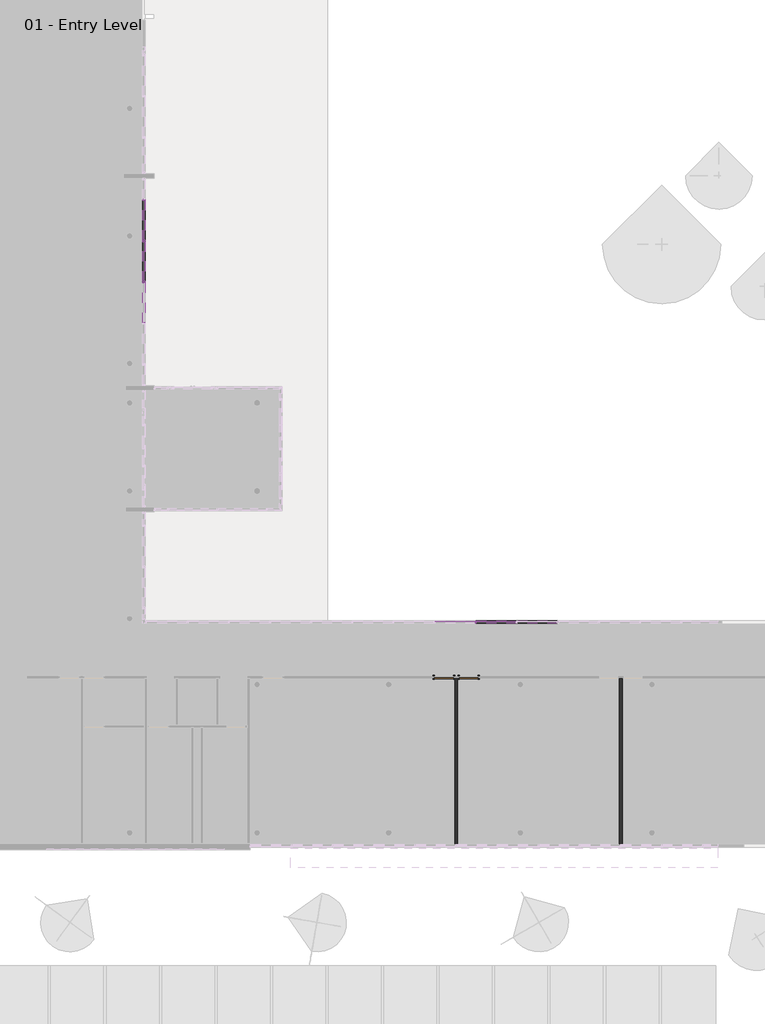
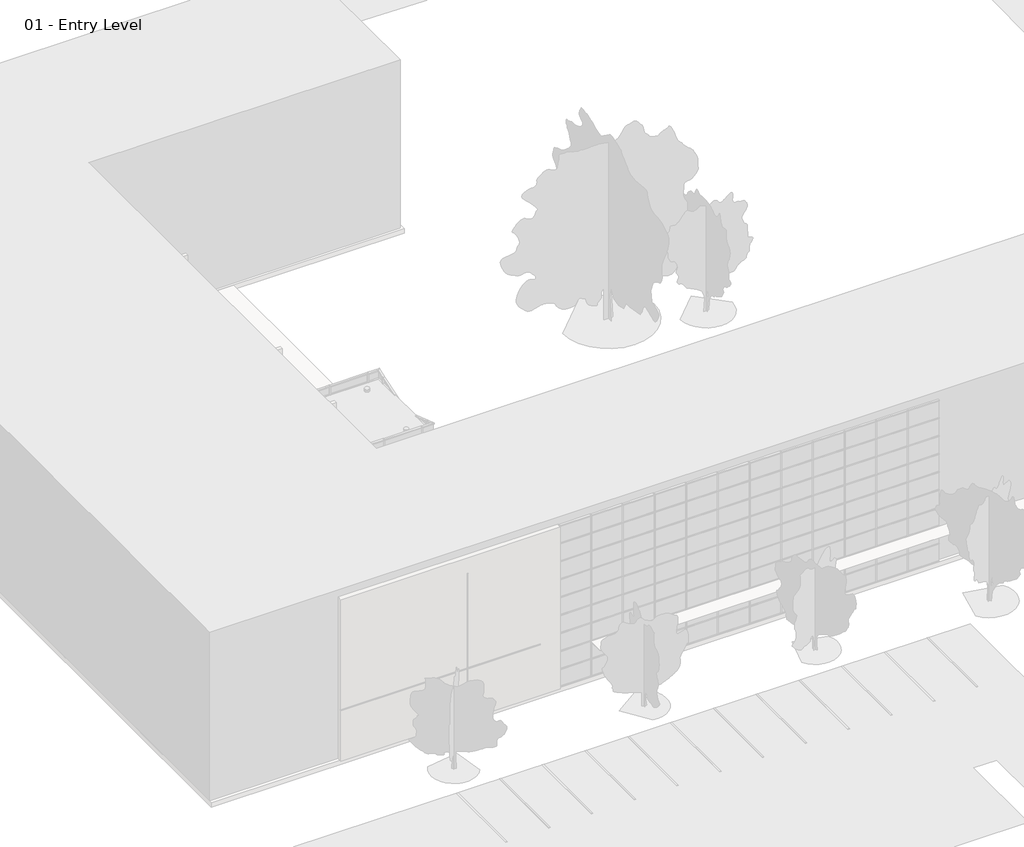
# One storey, part 18 of 34: 90 members, 36 plates, 2 doors, 2 walls.
"""IFC4 building model written with IfcOpenShell, lengths in millimetres."""

from ifc_helpers import new_model, si_unit, origin, origin_with_axes, place, context, project, spatial, polyline, outline, extrude, transform, mapped, element, save
from components import door_a1797ceb, door_a3eb833a, member_2b49869a, member_391b434c, member_9e90ae50, member_9193c932, system_panel_glazed_1b9d6098, system_panel_glazed_70da479d

model = new_model("IFC4")

# Units and contexts
model_context = context("Model", 3, world=origin())
ifc_project = project(units=[si_unit("LENGTHUNIT", "METRE", prefix="MILLI")], contexts=[model_context])

# Site, building, storey
site = spatial("IfcSite", under=ifc_project)
building = spatial("IfcBuilding", under=site)
storey = spatial("IfcBuildingStorey", under=building, Name="01 - Entry Level", Elevation=0.0)

# Doors
placement = place(None, origin())
door_shape = door_a1797ceb(model_context)
element("IfcDoor", 1, ObjectType="Single-Flush : 36\" x 84\"", at=placement, inside=storey, context=model_context, shape_type="MappedRepresentation", body=[
    mapped(door_shape, transform((33236.8207476, 8270.8, 0.0), x_axis=(-1.0, 0.0, 0.0), y_axis=(0.0, -1.0, 0.0), z_axis=(0.0, 0.0, 1.0))),
])
door_2_shape = door_a3eb833a(model_context)
element("IfcDoor", 2, ObjectType="Single-Flush : 36\" x 84\"", at=placement, inside=storey, context=model_context, shape_type="MappedRepresentation", body=[
    mapped(door_2_shape, transform((32017.6207476, 8270.8, 0.0), x_axis=(1.0, 0.0, 0.0), y_axis=(0.0, 1.0, 0.0), z_axis=(0.0, 0.0, 1.0))),
])

# Members
member_shape = member_2b49869a(model_context)
element("IfcMember", 3, ObjectType="Rectangular Mullion : 2.5\" x 5\" rectangular", at=placement, inside=storey, context=model_context, shape_type="MappedRepresentation", body=[
    mapped(member_shape, transform((33592.4207476, 11001.3, 9753.6), x_axis=(-1.0, 0.0, 0.0), y_axis=(0.0, 1.0, 0.0), z_axis=(0.0, 0.0, -1.0))),
])
element("IfcMember", 4, ObjectType="Rectangular Mullion : 2.5\" x 5\" rectangular", at=placement, inside=storey, context=model_context, shape_type="MappedRepresentation", body=[
    mapped(member_shape, transform((17184.0207476, 27784.35, 9753.6), x_axis=(0.0, 1.0, 0.0), y_axis=(1.0, 0.0, 0.0), z_axis=(0.0, 0.0, -1.0))),
])
element("IfcMember", 5, ObjectType="Rectangular Mullion : 2.5\" x 5\" rectangular", at=placement, inside=storey, context=model_context, shape_type="MappedRepresentation", body=[
    mapped(member_shape, transform((17184.0207476, 29816.35, 9753.6), x_axis=(0.0, 1.0, 0.0), y_axis=(1.0, 0.0, 0.0), z_axis=(0.0, 0.0, -1.0))),
])
element("IfcMember", 6, ObjectType="Rectangular Mullion : 2.5\" x 5\" rectangular", at=placement, inside=storey, context=model_context, shape_type="MappedRepresentation", body=[
    mapped(member_shape, transform((17184.0207476, 31848.35, 9753.6), x_axis=(0.0, 1.0, 0.0), y_axis=(1.0, 0.0, 0.0), z_axis=(0.0, 0.0, -1.0))),
])
member_2_shape = member_391b434c(model_context)
element("IfcMember", 7, ObjectType="Rectangular Mullion : 2.5\" x 5\" rectangular", at=placement, inside=storey, context=model_context, shape_type="MappedRepresentation", body=[
    mapped(member_2_shape, transform((35656.1707476, 11001.3, 10972.8), x_axis=(0.0, 0.0, 1.0), y_axis=(0.0, 1.0, 0.0), z_axis=(-1.0, 0.0, 0.0))),
])
element("IfcMember", 8, ObjectType="Rectangular Mullion : 2.5\" x 5\" rectangular", at=placement, inside=storey, context=model_context, shape_type="MappedRepresentation", body=[
    mapped(member_2_shape, transform((33624.1707476, 11001.3, 10972.8), x_axis=(0.0, 0.0, 1.0), y_axis=(0.0, 1.0, 0.0), z_axis=(-1.0, 0.0, 0.0))),
])
element("IfcMember", 9, ObjectType="Rectangular Mullion : 2.5\" x 5\" rectangular", at=placement, inside=storey, context=model_context, shape_type="MappedRepresentation", body=[
    mapped(member_2_shape, transform((17184.0207476, 29784.6, 10972.8), x_axis=(0.0, 0.0, 1.0), y_axis=(1.0, 0.0, 0.0), z_axis=(0.0, 1.0, 0.0))),
])
element("IfcMember", 10, ObjectType="Rectangular Mullion : 2.5\" x 5\" rectangular", at=placement, inside=storey, context=model_context, shape_type="MappedRepresentation", body=[
    mapped(member_2_shape, transform((17184.0207476, 31816.6, 10972.8), x_axis=(0.0, 0.0, 1.0), y_axis=(1.0, 0.0, 0.0), z_axis=(0.0, 1.0, 0.0))),
])
element("IfcMember", 11, ObjectType="Rectangular Mullion : 2.5\" x 5\" rectangular", at=placement, inside=storey, context=model_context, shape_type="MappedRepresentation", body=[
    mapped(member_2_shape, transform((35592.6707476, 11001.3, 0.0), x_axis=(0.0, 0.0, -1.0), y_axis=(0.0, 1.0, 0.0), z_axis=(1.0, 0.0, 0.0))),
])
element("IfcMember", 12, ObjectType="Rectangular Mullion : 2.5\" x 5\" rectangular", at=placement, inside=storey, context=model_context, shape_type="MappedRepresentation", body=[
    mapped(member_2_shape, transform((33560.6707476, 11001.3, 0.0), x_axis=(0.0, 0.0, -1.0), y_axis=(0.0, 1.0, 0.0), z_axis=(1.0, 0.0, 0.0))),
])
element("IfcMember", 13, ObjectType="Rectangular Mullion : 2.5\" x 5\" rectangular", at=placement, inside=storey, context=model_context, shape_type="MappedRepresentation", body=[
    mapped(member_2_shape, transform((17184.0207476, 29848.1, 0.0), x_axis=(0.0, 0.0, -1.0), y_axis=(1.0, 0.0, 0.0), z_axis=(0.0, -1.0, 0.0))),
])
member_3_shape = member_9e90ae50(model_context)
element("IfcMember", 14, ObjectType="Rectangular Mullion : 2.5\" x 5\" rectangular", at=placement, inside=storey, context=model_context, shape_type="MappedRepresentation", body=[
    mapped(member_3_shape, transform((35656.1707476, 11001.3, 1219.2), x_axis=(0.0, 0.0, 1.0), y_axis=(0.0, 1.0, 0.0), z_axis=(-1.0, 0.0, 0.0))),
])
element("IfcMember", 15, ObjectType="Rectangular Mullion : 2.5\" x 5\" rectangular", at=placement, inside=storey, context=model_context, shape_type="MappedRepresentation", body=[
    mapped(member_3_shape, transform((33624.1707476, 11001.3, 1219.2), x_axis=(0.0, 0.0, 1.0), y_axis=(0.0, 1.0, 0.0), z_axis=(-1.0, 0.0, 0.0))),
])
element("IfcMember", 16, ObjectType="Rectangular Mullion : 2.5\" x 5\" rectangular", at=placement, inside=storey, context=model_context, shape_type="MappedRepresentation", body=[
    mapped(member_3_shape, transform((35656.1707476, 11001.3, 2438.4), x_axis=(0.0, 0.0, 1.0), y_axis=(0.0, 1.0, 0.0), z_axis=(-1.0, 0.0, 0.0))),
])
element("IfcMember", 17, ObjectType="Rectangular Mullion : 2.5\" x 5\" rectangular", at=placement, inside=storey, context=model_context, shape_type="MappedRepresentation", body=[
    mapped(member_3_shape, transform((33624.1707476, 11001.3, 2438.4), x_axis=(0.0, 0.0, 1.0), y_axis=(0.0, 1.0, 0.0), z_axis=(-1.0, 0.0, 0.0))),
])
element("IfcMember", 18, ObjectType="Rectangular Mullion : 2.5\" x 5\" rectangular", at=placement, inside=storey, context=model_context, shape_type="MappedRepresentation", body=[
    mapped(member_3_shape, transform((35656.1707476, 11001.3, 3657.6), x_axis=(0.0, 0.0, 1.0), y_axis=(0.0, 1.0, 0.0), z_axis=(-1.0, 0.0, 0.0))),
])
element("IfcMember", 19, ObjectType="Rectangular Mullion : 2.5\" x 5\" rectangular", at=placement, inside=storey, context=model_context, shape_type="MappedRepresentation", body=[
    mapped(member_3_shape, transform((33624.1707476, 11001.3, 3657.6), x_axis=(0.0, 0.0, 1.0), y_axis=(0.0, 1.0, 0.0), z_axis=(-1.0, 0.0, 0.0))),
])
element("IfcMember", 20, ObjectType="Rectangular Mullion : 2.5\" x 5\" rectangular", at=placement, inside=storey, context=model_context, shape_type="MappedRepresentation", body=[
    mapped(member_3_shape, transform((35656.1707476, 11001.3, 4876.8), x_axis=(0.0, 0.0, 1.0), y_axis=(0.0, 1.0, 0.0), z_axis=(-1.0, 0.0, 0.0))),
])
element("IfcMember", 21, ObjectType="Rectangular Mullion : 2.5\" x 5\" rectangular", at=placement, inside=storey, context=model_context, shape_type="MappedRepresentation", body=[
    mapped(member_3_shape, transform((33624.1707476, 11001.3, 4876.8), x_axis=(0.0, 0.0, 1.0), y_axis=(0.0, 1.0, 0.0), z_axis=(-1.0, 0.0, 0.0))),
])
element("IfcMember", 22, ObjectType="Rectangular Mullion : 2.5\" x 5\" rectangular", at=placement, inside=storey, context=model_context, shape_type="MappedRepresentation", body=[
    mapped(member_3_shape, transform((35656.1707476, 11001.3, 6096.0), x_axis=(0.0, 0.0, 1.0), y_axis=(0.0, 1.0, 0.0), z_axis=(-1.0, 0.0, 0.0))),
])
element("IfcMember", 23, ObjectType="Rectangular Mullion : 2.5\" x 5\" rectangular", at=placement, inside=storey, context=model_context, shape_type="MappedRepresentation", body=[
    mapped(member_3_shape, transform((33624.1707476, 11001.3, 6096.0), x_axis=(0.0, 0.0, 1.0), y_axis=(0.0, 1.0, 0.0), z_axis=(-1.0, 0.0, 0.0))),
])
element("IfcMember", 24, ObjectType="Rectangular Mullion : 2.5\" x 5\" rectangular", at=placement, inside=storey, context=model_context, shape_type="MappedRepresentation", body=[
    mapped(member_3_shape, transform((35656.1707476, 11001.3, 7315.2), x_axis=(0.0, 0.0, 1.0), y_axis=(0.0, 1.0, 0.0), z_axis=(-1.0, 0.0, 0.0))),
])
element("IfcMember", 25, ObjectType="Rectangular Mullion : 2.5\" x 5\" rectangular", at=placement, inside=storey, context=model_context, shape_type="MappedRepresentation", body=[
    mapped(member_3_shape, transform((33624.1707476, 11001.3, 7315.2), x_axis=(0.0, 0.0, 1.0), y_axis=(0.0, 1.0, 0.0), z_axis=(-1.0, 0.0, 0.0))),
])
element("IfcMember", 26, ObjectType="Rectangular Mullion : 2.5\" x 5\" rectangular", at=placement, inside=storey, context=model_context, shape_type="MappedRepresentation", body=[
    mapped(member_3_shape, transform((35656.1707476, 11001.3, 8534.4), x_axis=(0.0, 0.0, 1.0), y_axis=(0.0, 1.0, 0.0), z_axis=(-1.0, 0.0, 0.0))),
])
element("IfcMember", 27, ObjectType="Rectangular Mullion : 2.5\" x 5\" rectangular", at=placement, inside=storey, context=model_context, shape_type="MappedRepresentation", body=[
    mapped(member_3_shape, transform((33624.1707476, 11001.3, 8534.4), x_axis=(0.0, 0.0, 1.0), y_axis=(0.0, 1.0, 0.0), z_axis=(-1.0, 0.0, 0.0))),
])
element("IfcMember", 28, ObjectType="Rectangular Mullion : 2.5\" x 5\" rectangular", at=placement, inside=storey, context=model_context, shape_type="MappedRepresentation", body=[
    mapped(member_3_shape, transform((35656.1707476, 11001.3, 9753.6), x_axis=(0.0, 0.0, 1.0), y_axis=(0.0, 1.0, 0.0), z_axis=(-1.0, 0.0, 0.0))),
])
element("IfcMember", 29, ObjectType="Rectangular Mullion : 2.5\" x 5\" rectangular", at=placement, inside=storey, context=model_context, shape_type="MappedRepresentation", body=[
    mapped(member_3_shape, transform((33624.1707476, 11001.3, 9753.6), x_axis=(0.0, 0.0, 1.0), y_axis=(0.0, 1.0, 0.0), z_axis=(-1.0, 0.0, 0.0))),
])
element("IfcMember", 30, ObjectType="Rectangular Mullion : 2.5\" x 5\" rectangular", at=placement, inside=storey, context=model_context, shape_type="MappedRepresentation", body=[
    mapped(member_3_shape, transform((17184.0207476, 29784.6, 1219.2), x_axis=(0.0, 0.0, 1.0), y_axis=(1.0, 0.0, 0.0), z_axis=(0.0, 1.0, 0.0))),
])
element("IfcMember", 31, ObjectType="Rectangular Mullion : 2.5\" x 5\" rectangular", at=placement, inside=storey, context=model_context, shape_type="MappedRepresentation", body=[
    mapped(member_3_shape, transform((17184.0207476, 31816.6, 1219.2), x_axis=(0.0, 0.0, 1.0), y_axis=(1.0, 0.0, 0.0), z_axis=(0.0, 1.0, 0.0))),
])
element("IfcMember", 32, ObjectType="Rectangular Mullion : 2.5\" x 5\" rectangular", at=placement, inside=storey, context=model_context, shape_type="MappedRepresentation", body=[
    mapped(member_3_shape, transform((17184.0207476, 29784.6, 2438.4), x_axis=(0.0, 0.0, 1.0), y_axis=(1.0, 0.0, 0.0), z_axis=(0.0, 1.0, 0.0))),
])
element("IfcMember", 33, ObjectType="Rectangular Mullion : 2.5\" x 5\" rectangular", at=placement, inside=storey, context=model_context, shape_type="MappedRepresentation", body=[
    mapped(member_3_shape, transform((17184.0207476, 31816.6, 2438.4), x_axis=(0.0, 0.0, 1.0), y_axis=(1.0, 0.0, 0.0), z_axis=(0.0, 1.0, 0.0))),
])
element("IfcMember", 34, ObjectType="Rectangular Mullion : 2.5\" x 5\" rectangular", at=placement, inside=storey, context=model_context, shape_type="MappedRepresentation", body=[
    mapped(member_3_shape, transform((17184.0207476, 27752.6, 3657.6), x_axis=(0.0, 0.0, 1.0), y_axis=(1.0, 0.0, 0.0), z_axis=(0.0, 1.0, 0.0))),
])
element("IfcMember", 35, ObjectType="Rectangular Mullion : 2.5\" x 5\" rectangular", at=placement, inside=storey, context=model_context, shape_type="MappedRepresentation", body=[
    mapped(member_3_shape, transform((17184.0207476, 29784.6, 3657.6), x_axis=(0.0, 0.0, 1.0), y_axis=(1.0, 0.0, 0.0), z_axis=(0.0, 1.0, 0.0))),
])
element("IfcMember", 36, ObjectType="Rectangular Mullion : 2.5\" x 5\" rectangular", at=placement, inside=storey, context=model_context, shape_type="MappedRepresentation", body=[
    mapped(member_3_shape, transform((17184.0207476, 31816.6, 3657.6), x_axis=(0.0, 0.0, 1.0), y_axis=(1.0, 0.0, 0.0), z_axis=(0.0, 1.0, 0.0))),
])
element("IfcMember", 37, ObjectType="Rectangular Mullion : 2.5\" x 5\" rectangular", at=placement, inside=storey, context=model_context, shape_type="MappedRepresentation", body=[
    mapped(member_3_shape, transform((17184.0207476, 27752.6, 4876.8), x_axis=(0.0, 0.0, 1.0), y_axis=(1.0, 0.0, 0.0), z_axis=(0.0, 1.0, 0.0))),
])
element("IfcMember", 38, ObjectType="Rectangular Mullion : 2.5\" x 5\" rectangular", at=placement, inside=storey, context=model_context, shape_type="MappedRepresentation", body=[
    mapped(member_3_shape, transform((17184.0207476, 29784.6, 4876.8), x_axis=(0.0, 0.0, 1.0), y_axis=(1.0, 0.0, 0.0), z_axis=(0.0, 1.0, 0.0))),
])
element("IfcMember", 39, ObjectType="Rectangular Mullion : 2.5\" x 5\" rectangular", at=placement, inside=storey, context=model_context, shape_type="MappedRepresentation", body=[
    mapped(member_3_shape, transform((17184.0207476, 31816.6, 4876.8), x_axis=(0.0, 0.0, 1.0), y_axis=(1.0, 0.0, 0.0), z_axis=(0.0, 1.0, 0.0))),
])
element("IfcMember", 40, ObjectType="Rectangular Mullion : 2.5\" x 5\" rectangular", at=placement, inside=storey, context=model_context, shape_type="MappedRepresentation", body=[
    mapped(member_3_shape, transform((17184.0207476, 27752.6, 6096.0), x_axis=(0.0, 0.0, 1.0), y_axis=(1.0, 0.0, 0.0), z_axis=(0.0, 1.0, 0.0))),
])
element("IfcMember", 41, ObjectType="Rectangular Mullion : 2.5\" x 5\" rectangular", at=placement, inside=storey, context=model_context, shape_type="MappedRepresentation", body=[
    mapped(member_3_shape, transform((17184.0207476, 29784.6, 6096.0), x_axis=(0.0, 0.0, 1.0), y_axis=(1.0, 0.0, 0.0), z_axis=(0.0, 1.0, 0.0))),
])
element("IfcMember", 42, ObjectType="Rectangular Mullion : 2.5\" x 5\" rectangular", at=placement, inside=storey, context=model_context, shape_type="MappedRepresentation", body=[
    mapped(member_3_shape, transform((17184.0207476, 31816.6, 6096.0), x_axis=(0.0, 0.0, 1.0), y_axis=(1.0, 0.0, 0.0), z_axis=(0.0, 1.0, 0.0))),
])
element("IfcMember", 43, ObjectType="Rectangular Mullion : 2.5\" x 5\" rectangular", at=placement, inside=storey, context=model_context, shape_type="MappedRepresentation", body=[
    mapped(member_3_shape, transform((17184.0207476, 27752.6, 7315.2), x_axis=(0.0, 0.0, 1.0), y_axis=(1.0, 0.0, 0.0), z_axis=(0.0, 1.0, 0.0))),
])
element("IfcMember", 44, ObjectType="Rectangular Mullion : 2.5\" x 5\" rectangular", at=placement, inside=storey, context=model_context, shape_type="MappedRepresentation", body=[
    mapped(member_3_shape, transform((17184.0207476, 29784.6, 7315.2), x_axis=(0.0, 0.0, 1.0), y_axis=(1.0, 0.0, 0.0), z_axis=(0.0, 1.0, 0.0))),
])
element("IfcMember", 45, ObjectType="Rectangular Mullion : 2.5\" x 5\" rectangular", at=placement, inside=storey, context=model_context, shape_type="MappedRepresentation", body=[
    mapped(member_3_shape, transform((17184.0207476, 31816.6, 7315.2), x_axis=(0.0, 0.0, 1.0), y_axis=(1.0, 0.0, 0.0), z_axis=(0.0, 1.0, 0.0))),
])
element("IfcMember", 46, ObjectType="Rectangular Mullion : 2.5\" x 5\" rectangular", at=placement, inside=storey, context=model_context, shape_type="MappedRepresentation", body=[
    mapped(member_3_shape, transform((17184.0207476, 27752.6, 8534.4), x_axis=(0.0, 0.0, 1.0), y_axis=(1.0, 0.0, 0.0), z_axis=(0.0, 1.0, 0.0))),
])
element("IfcMember", 47, ObjectType="Rectangular Mullion : 2.5\" x 5\" rectangular", at=placement, inside=storey, context=model_context, shape_type="MappedRepresentation", body=[
    mapped(member_3_shape, transform((17184.0207476, 29784.6, 8534.4), x_axis=(0.0, 0.0, 1.0), y_axis=(1.0, 0.0, 0.0), z_axis=(0.0, 1.0, 0.0))),
])
element("IfcMember", 48, ObjectType="Rectangular Mullion : 2.5\" x 5\" rectangular", at=placement, inside=storey, context=model_context, shape_type="MappedRepresentation", body=[
    mapped(member_3_shape, transform((17184.0207476, 31816.6, 8534.4), x_axis=(0.0, 0.0, 1.0), y_axis=(1.0, 0.0, 0.0), z_axis=(0.0, 1.0, 0.0))),
])
element("IfcMember", 49, ObjectType="Rectangular Mullion : 2.5\" x 5\" rectangular", at=placement, inside=storey, context=model_context, shape_type="MappedRepresentation", body=[
    mapped(member_3_shape, transform((17184.0207476, 27752.6, 9753.6), x_axis=(0.0, 0.0, 1.0), y_axis=(1.0, 0.0, 0.0), z_axis=(0.0, 1.0, 0.0))),
])
element("IfcMember", 50, ObjectType="Rectangular Mullion : 2.5\" x 5\" rectangular", at=placement, inside=storey, context=model_context, shape_type="MappedRepresentation", body=[
    mapped(member_3_shape, transform((17184.0207476, 29784.6, 9753.6), x_axis=(0.0, 0.0, 1.0), y_axis=(1.0, 0.0, 0.0), z_axis=(0.0, 1.0, 0.0))),
])
element("IfcMember", 51, ObjectType="Rectangular Mullion : 2.5\" x 5\" rectangular", at=placement, inside=storey, context=model_context, shape_type="MappedRepresentation", body=[
    mapped(member_3_shape, transform((17184.0207476, 31816.6, 9753.6), x_axis=(0.0, 0.0, 1.0), y_axis=(1.0, 0.0, 0.0), z_axis=(0.0, 1.0, 0.0))),
])
element("IfcMember", 52, ObjectType="Rectangular Mullion : 2.5\" x 5\" rectangular", at=placement, inside=storey, context=model_context, shape_type="MappedRepresentation", body=[
    mapped(member_shape, transform((35624.4207476, 11001.3, 0.0), x_axis=(-1.0, 0.0, 0.0), y_axis=(0.0, 1.0, 0.0), z_axis=(0.0, 0.0, -1.0))),
])
element("IfcMember", 53, ObjectType="Rectangular Mullion : 2.5\" x 5\" rectangular", at=placement, inside=storey, context=model_context, shape_type="MappedRepresentation", body=[
    mapped(member_shape, transform((33592.4207476, 11001.3, 0.0), x_axis=(-1.0, 0.0, 0.0), y_axis=(0.0, 1.0, 0.0), z_axis=(0.0, 0.0, -1.0))),
])
element("IfcMember", 54, ObjectType="Rectangular Mullion : 2.5\" x 5\" rectangular", at=placement, inside=storey, context=model_context, shape_type="MappedRepresentation", body=[
    mapped(member_shape, transform((17184.0207476, 27784.35, 0.0), x_axis=(0.0, 1.0, 0.0), y_axis=(1.0, 0.0, 0.0), z_axis=(0.0, 0.0, -1.0))),
])
element("IfcMember", 55, ObjectType="Rectangular Mullion : 2.5\" x 5\" rectangular", at=placement, inside=storey, context=model_context, shape_type="MappedRepresentation", body=[
    mapped(member_shape, transform((17184.0207476, 29816.35, 0.0), x_axis=(0.0, 1.0, 0.0), y_axis=(1.0, 0.0, 0.0), z_axis=(0.0, 0.0, -1.0))),
])
element("IfcMember", 56, ObjectType="Rectangular Mullion : 2.5\" x 5\" rectangular", at=placement, inside=storey, context=model_context, shape_type="MappedRepresentation", body=[
    mapped(member_shape, transform((17184.0207476, 31848.35, 0.0), x_axis=(0.0, 1.0, 0.0), y_axis=(1.0, 0.0, 0.0), z_axis=(0.0, 0.0, -1.0))),
])
element("IfcMember", 57, ObjectType="Rectangular Mullion : 2.5\" x 5\" rectangular", at=placement, inside=storey, context=model_context, shape_type="MappedRepresentation", body=[
    mapped(member_shape, transform((35624.4207476, 11001.3, 1219.2), x_axis=(-1.0, 0.0, 0.0), y_axis=(0.0, 1.0, 0.0), z_axis=(0.0, 0.0, -1.0))),
])
element("IfcMember", 58, ObjectType="Rectangular Mullion : 2.5\" x 5\" rectangular", at=placement, inside=storey, context=model_context, shape_type="MappedRepresentation", body=[
    mapped(member_shape, transform((33592.4207476, 11001.3, 1219.2), x_axis=(-1.0, 0.0, 0.0), y_axis=(0.0, 1.0, 0.0), z_axis=(0.0, 0.0, -1.0))),
])
element("IfcMember", 59, ObjectType="Rectangular Mullion : 2.5\" x 5\" rectangular", at=placement, inside=storey, context=model_context, shape_type="MappedRepresentation", body=[
    mapped(member_shape, transform((35624.4207476, 11001.3, 2438.4), x_axis=(-1.0, 0.0, 0.0), y_axis=(0.0, 1.0, 0.0), z_axis=(0.0, 0.0, -1.0))),
])
element("IfcMember", 60, ObjectType="Rectangular Mullion : 2.5\" x 5\" rectangular", at=placement, inside=storey, context=model_context, shape_type="MappedRepresentation", body=[
    mapped(member_shape, transform((33592.4207476, 11001.3, 2438.4), x_axis=(-1.0, 0.0, 0.0), y_axis=(0.0, 1.0, 0.0), z_axis=(0.0, 0.0, -1.0))),
])
element("IfcMember", 61, ObjectType="Rectangular Mullion : 2.5\" x 5\" rectangular", at=placement, inside=storey, context=model_context, shape_type="MappedRepresentation", body=[
    mapped(member_shape, transform((35624.4207476, 11001.3, 3657.6), x_axis=(-1.0, 0.0, 0.0), y_axis=(0.0, 1.0, 0.0), z_axis=(0.0, 0.0, -1.0))),
])
element("IfcMember", 62, ObjectType="Rectangular Mullion : 2.5\" x 5\" rectangular", at=placement, inside=storey, context=model_context, shape_type="MappedRepresentation", body=[
    mapped(member_shape, transform((33592.4207476, 11001.3, 3657.6), x_axis=(-1.0, 0.0, 0.0), y_axis=(0.0, 1.0, 0.0), z_axis=(0.0, 0.0, -1.0))),
])
element("IfcMember", 63, ObjectType="Rectangular Mullion : 2.5\" x 5\" rectangular", at=placement, inside=storey, context=model_context, shape_type="MappedRepresentation", body=[
    mapped(member_shape, transform((35624.4207476, 11001.3, 4876.8), x_axis=(-1.0, 0.0, 0.0), y_axis=(0.0, 1.0, 0.0), z_axis=(0.0, 0.0, -1.0))),
])
element("IfcMember", 64, ObjectType="Rectangular Mullion : 2.5\" x 5\" rectangular", at=placement, inside=storey, context=model_context, shape_type="MappedRepresentation", body=[
    mapped(member_shape, transform((33592.4207476, 11001.3, 4876.8), x_axis=(-1.0, 0.0, 0.0), y_axis=(0.0, 1.0, 0.0), z_axis=(0.0, 0.0, -1.0))),
])
element("IfcMember", 65, ObjectType="Rectangular Mullion : 2.5\" x 5\" rectangular", at=placement, inside=storey, context=model_context, shape_type="MappedRepresentation", body=[
    mapped(member_shape, transform((35624.4207476, 11001.3, 6096.0), x_axis=(-1.0, 0.0, 0.0), y_axis=(0.0, 1.0, 0.0), z_axis=(0.0, 0.0, -1.0))),
])
element("IfcMember", 66, ObjectType="Rectangular Mullion : 2.5\" x 5\" rectangular", at=placement, inside=storey, context=model_context, shape_type="MappedRepresentation", body=[
    mapped(member_shape, transform((33592.4207476, 11001.3, 6096.0), x_axis=(-1.0, 0.0, 0.0), y_axis=(0.0, 1.0, 0.0), z_axis=(0.0, 0.0, -1.0))),
])
element("IfcMember", 67, ObjectType="Rectangular Mullion : 2.5\" x 5\" rectangular", at=placement, inside=storey, context=model_context, shape_type="MappedRepresentation", body=[
    mapped(member_shape, transform((35624.4207476, 11001.3, 7315.2), x_axis=(-1.0, 0.0, 0.0), y_axis=(0.0, 1.0, 0.0), z_axis=(0.0, 0.0, -1.0))),
])
element("IfcMember", 68, ObjectType="Rectangular Mullion : 2.5\" x 5\" rectangular", at=placement, inside=storey, context=model_context, shape_type="MappedRepresentation", body=[
    mapped(member_shape, transform((33592.4207476, 11001.3, 7315.2), x_axis=(-1.0, 0.0, 0.0), y_axis=(0.0, 1.0, 0.0), z_axis=(0.0, 0.0, -1.0))),
])
element("IfcMember", 69, ObjectType="Rectangular Mullion : 2.5\" x 5\" rectangular", at=placement, inside=storey, context=model_context, shape_type="MappedRepresentation", body=[
    mapped(member_shape, transform((35624.4207476, 11001.3, 8534.4), x_axis=(-1.0, 0.0, 0.0), y_axis=(0.0, 1.0, 0.0), z_axis=(0.0, 0.0, -1.0))),
])
element("IfcMember", 70, ObjectType="Rectangular Mullion : 2.5\" x 5\" rectangular", at=placement, inside=storey, context=model_context, shape_type="MappedRepresentation", body=[
    mapped(member_shape, transform((33592.4207476, 11001.3, 8534.4), x_axis=(-1.0, 0.0, 0.0), y_axis=(0.0, 1.0, 0.0), z_axis=(0.0, 0.0, -1.0))),
])
element("IfcMember", 71, ObjectType="Rectangular Mullion : 2.5\" x 5\" rectangular", at=placement, inside=storey, context=model_context, shape_type="MappedRepresentation", body=[
    mapped(member_shape, transform((17184.0207476, 27784.35, 1219.2), x_axis=(0.0, 1.0, 0.0), y_axis=(1.0, 0.0, 0.0), z_axis=(0.0, 0.0, -1.0))),
])
element("IfcMember", 72, ObjectType="Rectangular Mullion : 2.5\" x 5\" rectangular", at=placement, inside=storey, context=model_context, shape_type="MappedRepresentation", body=[
    mapped(member_shape, transform((17184.0207476, 29816.35, 1219.2), x_axis=(0.0, 1.0, 0.0), y_axis=(1.0, 0.0, 0.0), z_axis=(0.0, 0.0, -1.0))),
])
element("IfcMember", 73, ObjectType="Rectangular Mullion : 2.5\" x 5\" rectangular", at=placement, inside=storey, context=model_context, shape_type="MappedRepresentation", body=[
    mapped(member_shape, transform((17184.0207476, 31848.35, 1219.2), x_axis=(0.0, 1.0, 0.0), y_axis=(1.0, 0.0, 0.0), z_axis=(0.0, 0.0, -1.0))),
])
element("IfcMember", 74, ObjectType="Rectangular Mullion : 2.5\" x 5\" rectangular", at=placement, inside=storey, context=model_context, shape_type="MappedRepresentation", body=[
    mapped(member_shape, transform((17184.0207476, 27784.35, 2438.4), x_axis=(0.0, 1.0, 0.0), y_axis=(1.0, 0.0, 0.0), z_axis=(0.0, 0.0, -1.0))),
])
element("IfcMember", 75, ObjectType="Rectangular Mullion : 2.5\" x 5\" rectangular", at=placement, inside=storey, context=model_context, shape_type="MappedRepresentation", body=[
    mapped(member_shape, transform((17184.0207476, 29816.35, 2438.4), x_axis=(0.0, 1.0, 0.0), y_axis=(1.0, 0.0, 0.0), z_axis=(0.0, 0.0, -1.0))),
])
element("IfcMember", 76, ObjectType="Rectangular Mullion : 2.5\" x 5\" rectangular", at=placement, inside=storey, context=model_context, shape_type="MappedRepresentation", body=[
    mapped(member_shape, transform((17184.0207476, 31848.35, 2438.4), x_axis=(0.0, 1.0, 0.0), y_axis=(1.0, 0.0, 0.0), z_axis=(0.0, 0.0, -1.0))),
])
element("IfcMember", 77, ObjectType="Rectangular Mullion : 2.5\" x 5\" rectangular", at=placement, inside=storey, context=model_context, shape_type="MappedRepresentation", body=[
    mapped(member_shape, transform((17184.0207476, 27784.35, 3657.6), x_axis=(0.0, 1.0, 0.0), y_axis=(1.0, 0.0, 0.0), z_axis=(0.0, 0.0, -1.0))),
])
element("IfcMember", 78, ObjectType="Rectangular Mullion : 2.5\" x 5\" rectangular", at=placement, inside=storey, context=model_context, shape_type="MappedRepresentation", body=[
    mapped(member_shape, transform((17184.0207476, 29816.35, 3657.6), x_axis=(0.0, 1.0, 0.0), y_axis=(1.0, 0.0, 0.0), z_axis=(0.0, 0.0, -1.0))),
])
element("IfcMember", 79, ObjectType="Rectangular Mullion : 2.5\" x 5\" rectangular", at=placement, inside=storey, context=model_context, shape_type="MappedRepresentation", body=[
    mapped(member_shape, transform((17184.0207476, 31848.35, 3657.6), x_axis=(0.0, 1.0, 0.0), y_axis=(1.0, 0.0, 0.0), z_axis=(0.0, 0.0, -1.0))),
])
element("IfcMember", 80, ObjectType="Rectangular Mullion : 2.5\" x 5\" rectangular", at=placement, inside=storey, context=model_context, shape_type="MappedRepresentation", body=[
    mapped(member_shape, transform((17184.0207476, 27784.35, 4876.8), x_axis=(0.0, 1.0, 0.0), y_axis=(1.0, 0.0, 0.0), z_axis=(0.0, 0.0, -1.0))),
])
element("IfcMember", 81, ObjectType="Rectangular Mullion : 2.5\" x 5\" rectangular", at=placement, inside=storey, context=model_context, shape_type="MappedRepresentation", body=[
    mapped(member_shape, transform((17184.0207476, 29816.35, 4876.8), x_axis=(0.0, 1.0, 0.0), y_axis=(1.0, 0.0, 0.0), z_axis=(0.0, 0.0, -1.0))),
])
element("IfcMember", 82, ObjectType="Rectangular Mullion : 2.5\" x 5\" rectangular", at=placement, inside=storey, context=model_context, shape_type="MappedRepresentation", body=[
    mapped(member_shape, transform((17184.0207476, 31848.35, 4876.8), x_axis=(0.0, 1.0, 0.0), y_axis=(1.0, 0.0, 0.0), z_axis=(0.0, 0.0, -1.0))),
])
element("IfcMember", 83, ObjectType="Rectangular Mullion : 2.5\" x 5\" rectangular", at=placement, inside=storey, context=model_context, shape_type="MappedRepresentation", body=[
    mapped(member_shape, transform((17184.0207476, 27784.35, 6096.0), x_axis=(0.0, 1.0, 0.0), y_axis=(1.0, 0.0, 0.0), z_axis=(0.0, 0.0, -1.0))),
])
element("IfcMember", 84, ObjectType="Rectangular Mullion : 2.5\" x 5\" rectangular", at=placement, inside=storey, context=model_context, shape_type="MappedRepresentation", body=[
    mapped(member_shape, transform((17184.0207476, 29816.35, 6096.0), x_axis=(0.0, 1.0, 0.0), y_axis=(1.0, 0.0, 0.0), z_axis=(0.0, 0.0, -1.0))),
])
element("IfcMember", 85, ObjectType="Rectangular Mullion : 2.5\" x 5\" rectangular", at=placement, inside=storey, context=model_context, shape_type="MappedRepresentation", body=[
    mapped(member_shape, transform((17184.0207476, 31848.35, 6096.0), x_axis=(0.0, 1.0, 0.0), y_axis=(1.0, 0.0, 0.0), z_axis=(0.0, 0.0, -1.0))),
])
element("IfcMember", 86, ObjectType="Rectangular Mullion : 2.5\" x 5\" rectangular", at=placement, inside=storey, context=model_context, shape_type="MappedRepresentation", body=[
    mapped(member_shape, transform((17184.0207476, 27784.35, 7315.2), x_axis=(0.0, 1.0, 0.0), y_axis=(1.0, 0.0, 0.0), z_axis=(0.0, 0.0, -1.0))),
])
element("IfcMember", 87, ObjectType="Rectangular Mullion : 2.5\" x 5\" rectangular", at=placement, inside=storey, context=model_context, shape_type="MappedRepresentation", body=[
    mapped(member_shape, transform((17184.0207476, 29816.35, 7315.2), x_axis=(0.0, 1.0, 0.0), y_axis=(1.0, 0.0, 0.0), z_axis=(0.0, 0.0, -1.0))),
])
element("IfcMember", 88, ObjectType="Rectangular Mullion : 2.5\" x 5\" rectangular", at=placement, inside=storey, context=model_context, shape_type="MappedRepresentation", body=[
    mapped(member_shape, transform((17184.0207476, 31848.35, 7315.2), x_axis=(0.0, 1.0, 0.0), y_axis=(1.0, 0.0, 0.0), z_axis=(0.0, 0.0, -1.0))),
])
element("IfcMember", 89, ObjectType="Rectangular Mullion : 2.5\" x 5\" rectangular", at=placement, inside=storey, context=model_context, shape_type="MappedRepresentation", body=[
    mapped(member_shape, transform((17184.0207476, 27784.35, 8534.4), x_axis=(0.0, 1.0, 0.0), y_axis=(1.0, 0.0, 0.0), z_axis=(0.0, 0.0, -1.0))),
])
element("IfcMember", 90, ObjectType="Rectangular Mullion : 2.5\" x 5\" rectangular", at=placement, inside=storey, context=model_context, shape_type="MappedRepresentation", body=[
    mapped(member_shape, transform((17184.0207476, 29816.35, 8534.4), x_axis=(0.0, 1.0, 0.0), y_axis=(1.0, 0.0, 0.0), z_axis=(0.0, 0.0, -1.0))),
])
element("IfcMember", 91, ObjectType="Rectangular Mullion : 2.5\" x 5\" rectangular", at=placement, inside=storey, context=model_context, shape_type="MappedRepresentation", body=[
    mapped(member_shape, transform((17184.0207476, 31848.35, 8534.4), x_axis=(0.0, 1.0, 0.0), y_axis=(1.0, 0.0, 0.0), z_axis=(0.0, 0.0, -1.0))),
])
member_4_shape = member_9193c932(model_context)
element("IfcMember", 92, ObjectType="Rectangular Mullion : 2.5\" x 5\" rectangular", at=placement, inside=storey, context=model_context, shape_type="MappedRepresentation", body=[
    mapped(member_4_shape, transform((17184.0207476, 31880.1, 0.0), x_axis=(0.0, 0.0, -1.0), y_axis=(1.0, 0.0, 0.0), z_axis=(0.0, -1.0, 0.0))),
])

# Plates
system_panel_glazed_shape = system_panel_glazed_1b9d6098(model_context)
element("IfcPlate", 93, ObjectType="System Panel : Glazed", at=placement, inside=storey, context=model_context, shape_type="MappedRepresentation", body=[
    mapped(system_panel_glazed_shape, transform((34608.4207476, 11001.3, 63.5), x_axis=(-1.0, 0.0, 0.0), y_axis=(0.0, -1.0, 0.0), z_axis=(0.0, 0.0, 1.0))),
])
element("IfcPlate", 94, ObjectType="System Panel : Glazed", at=placement, inside=storey, context=model_context, shape_type="MappedRepresentation", body=[
    mapped(system_panel_glazed_shape, transform((32576.4207476, 11001.3, 63.5), x_axis=(-1.0, 0.0, 0.0), y_axis=(0.0, -1.0, 0.0), z_axis=(0.0, 0.0, 1.0))),
])
element("IfcPlate", 95, ObjectType="System Panel : Glazed", at=placement, inside=storey, context=model_context, shape_type="MappedRepresentation", body=[
    mapped(system_panel_glazed_shape, transform((34608.4207476, 11001.3, 9785.35), x_axis=(-1.0, 0.0, 0.0), y_axis=(0.0, -1.0, 0.0), z_axis=(0.0, 0.0, 1.0))),
])
element("IfcPlate", 96, ObjectType="System Panel : Glazed", at=placement, inside=storey, context=model_context, shape_type="MappedRepresentation", body=[
    mapped(system_panel_glazed_shape, transform((32576.4207476, 11001.3, 9785.35), x_axis=(-1.0, 0.0, 0.0), y_axis=(0.0, -1.0, 0.0), z_axis=(0.0, 0.0, 1.0))),
])
element("IfcPlate", 97, ObjectType="System Panel : Glazed", at=placement, inside=storey, context=model_context, shape_type="MappedRepresentation", body=[
    mapped(system_panel_glazed_shape, transform((17184.0207476, 28800.35, 63.5), x_axis=(0.0, 1.0, 0.0), y_axis=(-1.0, 0.0, 0.0), z_axis=(0.0, 0.0, 1.0))),
])
element("IfcPlate", 98, ObjectType="System Panel : Glazed", at=placement, inside=storey, context=model_context, shape_type="MappedRepresentation", body=[
    mapped(system_panel_glazed_shape, transform((17184.0207476, 30832.35, 63.5), x_axis=(0.0, 1.0, 0.0), y_axis=(-1.0, 0.0, 0.0), z_axis=(0.0, 0.0, 1.0))),
])
element("IfcPlate", 99, ObjectType="System Panel : Glazed", at=placement, inside=storey, context=model_context, shape_type="MappedRepresentation", body=[
    mapped(system_panel_glazed_shape, transform((17184.0207476, 28800.35, 9785.35), x_axis=(0.0, 1.0, 0.0), y_axis=(-1.0, 0.0, 0.0), z_axis=(0.0, 0.0, 1.0))),
])
element("IfcPlate", 100, ObjectType="System Panel : Glazed", at=placement, inside=storey, context=model_context, shape_type="MappedRepresentation", body=[
    mapped(system_panel_glazed_shape, transform((17184.0207476, 30832.35, 9785.35), x_axis=(0.0, 1.0, 0.0), y_axis=(-1.0, 0.0, 0.0), z_axis=(0.0, 0.0, 1.0))),
])
system_panel_glazed_2_shape = system_panel_glazed_70da479d(model_context)
element("IfcPlate", 101, ObjectType="System Panel : Glazed", at=placement, inside=storey, context=model_context, shape_type="MappedRepresentation", body=[
    mapped(system_panel_glazed_2_shape, transform((34608.4207476, 11001.3, 1250.95), x_axis=(-1.0, 0.0, 0.0), y_axis=(0.0, -1.0, 0.0), z_axis=(0.0, 0.0, 1.0))),
])
element("IfcPlate", 102, ObjectType="System Panel : Glazed", at=placement, inside=storey, context=model_context, shape_type="MappedRepresentation", body=[
    mapped(system_panel_glazed_2_shape, transform((32576.4207476, 11001.3, 1250.95), x_axis=(-1.0, 0.0, 0.0), y_axis=(0.0, -1.0, 0.0), z_axis=(0.0, 0.0, 1.0))),
])
element("IfcPlate", 103, ObjectType="System Panel : Glazed", at=placement, inside=storey, context=model_context, shape_type="MappedRepresentation", body=[
    mapped(system_panel_glazed_2_shape, transform((34608.4207476, 11001.3, 2470.15), x_axis=(-1.0, 0.0, 0.0), y_axis=(0.0, -1.0, 0.0), z_axis=(0.0, 0.0, 1.0))),
])
element("IfcPlate", 104, ObjectType="System Panel : Glazed", at=placement, inside=storey, context=model_context, shape_type="MappedRepresentation", body=[
    mapped(system_panel_glazed_2_shape, transform((32576.4207476, 11001.3, 2470.15), x_axis=(-1.0, 0.0, 0.0), y_axis=(0.0, -1.0, 0.0), z_axis=(0.0, 0.0, 1.0))),
])
element("IfcPlate", 105, ObjectType="System Panel : Glazed", at=placement, inside=storey, context=model_context, shape_type="MappedRepresentation", body=[
    mapped(system_panel_glazed_2_shape, transform((34608.4207476, 11001.3, 3689.35), x_axis=(-1.0, 0.0, 0.0), y_axis=(0.0, -1.0, 0.0), z_axis=(0.0, 0.0, 1.0))),
])
element("IfcPlate", 106, ObjectType="System Panel : Glazed", at=placement, inside=storey, context=model_context, shape_type="MappedRepresentation", body=[
    mapped(system_panel_glazed_2_shape, transform((32576.4207476, 11001.3, 3689.35), x_axis=(-1.0, 0.0, 0.0), y_axis=(0.0, -1.0, 0.0), z_axis=(0.0, 0.0, 1.0))),
])
element("IfcPlate", 107, ObjectType="System Panel : Glazed", at=placement, inside=storey, context=model_context, shape_type="MappedRepresentation", body=[
    mapped(system_panel_glazed_2_shape, transform((34608.4207476, 11001.3, 4908.55), x_axis=(-1.0, 0.0, 0.0), y_axis=(0.0, -1.0, 0.0), z_axis=(0.0, 0.0, 1.0))),
])
element("IfcPlate", 108, ObjectType="System Panel : Glazed", at=placement, inside=storey, context=model_context, shape_type="MappedRepresentation", body=[
    mapped(system_panel_glazed_2_shape, transform((32576.4207476, 11001.3, 4908.55), x_axis=(-1.0, 0.0, 0.0), y_axis=(0.0, -1.0, 0.0), z_axis=(0.0, 0.0, 1.0))),
])
element("IfcPlate", 109, ObjectType="System Panel : Glazed", at=placement, inside=storey, context=model_context, shape_type="MappedRepresentation", body=[
    mapped(system_panel_glazed_2_shape, transform((34608.4207476, 11001.3, 6127.75), x_axis=(-1.0, 0.0, 0.0), y_axis=(0.0, -1.0, 0.0), z_axis=(0.0, 0.0, 1.0))),
])
element("IfcPlate", 110, ObjectType="System Panel : Glazed", at=placement, inside=storey, context=model_context, shape_type="MappedRepresentation", body=[
    mapped(system_panel_glazed_2_shape, transform((32576.4207476, 11001.3, 6127.75), x_axis=(-1.0, 0.0, 0.0), y_axis=(0.0, -1.0, 0.0), z_axis=(0.0, 0.0, 1.0))),
])
element("IfcPlate", 111, ObjectType="System Panel : Glazed", at=placement, inside=storey, context=model_context, shape_type="MappedRepresentation", body=[
    mapped(system_panel_glazed_2_shape, transform((34608.4207476, 11001.3, 7346.95), x_axis=(-1.0, 0.0, 0.0), y_axis=(0.0, -1.0, 0.0), z_axis=(0.0, 0.0, 1.0))),
])
element("IfcPlate", 112, ObjectType="System Panel : Glazed", at=placement, inside=storey, context=model_context, shape_type="MappedRepresentation", body=[
    mapped(system_panel_glazed_2_shape, transform((32576.4207476, 11001.3, 7346.95), x_axis=(-1.0, 0.0, 0.0), y_axis=(0.0, -1.0, 0.0), z_axis=(0.0, 0.0, 1.0))),
])
element("IfcPlate", 113, ObjectType="System Panel : Glazed", at=placement, inside=storey, context=model_context, shape_type="MappedRepresentation", body=[
    mapped(system_panel_glazed_2_shape, transform((34608.4207476, 11001.3, 8566.15), x_axis=(-1.0, 0.0, 0.0), y_axis=(0.0, -1.0, 0.0), z_axis=(0.0, 0.0, 1.0))),
])
element("IfcPlate", 114, ObjectType="System Panel : Glazed", at=placement, inside=storey, context=model_context, shape_type="MappedRepresentation", body=[
    mapped(system_panel_glazed_2_shape, transform((32576.4207476, 11001.3, 8566.15), x_axis=(-1.0, 0.0, 0.0), y_axis=(0.0, -1.0, 0.0), z_axis=(0.0, 0.0, 1.0))),
])
element("IfcPlate", 115, ObjectType="System Panel : Glazed", at=placement, inside=storey, context=model_context, shape_type="MappedRepresentation", body=[
    mapped(system_panel_glazed_2_shape, transform((17184.0207476, 28800.35, 1250.95), x_axis=(0.0, 1.0, 0.0), y_axis=(-1.0, 0.0, 0.0), z_axis=(0.0, 0.0, 1.0))),
])
element("IfcPlate", 116, ObjectType="System Panel : Glazed", at=placement, inside=storey, context=model_context, shape_type="MappedRepresentation", body=[
    mapped(system_panel_glazed_2_shape, transform((17184.0207476, 30832.35, 1250.95), x_axis=(0.0, 1.0, 0.0), y_axis=(-1.0, 0.0, 0.0), z_axis=(0.0, 0.0, 1.0))),
])
element("IfcPlate", 117, ObjectType="System Panel : Glazed", at=placement, inside=storey, context=model_context, shape_type="MappedRepresentation", body=[
    mapped(system_panel_glazed_2_shape, transform((17184.0207476, 28800.35, 2470.15), x_axis=(0.0, 1.0, 0.0), y_axis=(-1.0, 0.0, 0.0), z_axis=(0.0, 0.0, 1.0))),
])
element("IfcPlate", 118, ObjectType="System Panel : Glazed", at=placement, inside=storey, context=model_context, shape_type="MappedRepresentation", body=[
    mapped(system_panel_glazed_2_shape, transform((17184.0207476, 30832.35, 2470.15), x_axis=(0.0, 1.0, 0.0), y_axis=(-1.0, 0.0, 0.0), z_axis=(0.0, 0.0, 1.0))),
])
element("IfcPlate", 119, ObjectType="System Panel : Glazed", at=placement, inside=storey, context=model_context, shape_type="MappedRepresentation", body=[
    mapped(system_panel_glazed_2_shape, transform((17184.0207476, 28800.35, 3689.35), x_axis=(0.0, 1.0, 0.0), y_axis=(-1.0, 0.0, 0.0), z_axis=(0.0, 0.0, 1.0))),
])
element("IfcPlate", 120, ObjectType="System Panel : Glazed", at=placement, inside=storey, context=model_context, shape_type="MappedRepresentation", body=[
    mapped(system_panel_glazed_2_shape, transform((17184.0207476, 30832.35, 3689.35), x_axis=(0.0, 1.0, 0.0), y_axis=(-1.0, 0.0, 0.0), z_axis=(0.0, 0.0, 1.0))),
])
element("IfcPlate", 121, ObjectType="System Panel : Glazed", at=placement, inside=storey, context=model_context, shape_type="MappedRepresentation", body=[
    mapped(system_panel_glazed_2_shape, transform((17184.0207476, 28800.35, 4908.55), x_axis=(0.0, 1.0, 0.0), y_axis=(-1.0, 0.0, 0.0), z_axis=(0.0, 0.0, 1.0))),
])
element("IfcPlate", 122, ObjectType="System Panel : Glazed", at=placement, inside=storey, context=model_context, shape_type="MappedRepresentation", body=[
    mapped(system_panel_glazed_2_shape, transform((17184.0207476, 30832.35, 4908.55), x_axis=(0.0, 1.0, 0.0), y_axis=(-1.0, 0.0, 0.0), z_axis=(0.0, 0.0, 1.0))),
])
element("IfcPlate", 123, ObjectType="System Panel : Glazed", at=placement, inside=storey, context=model_context, shape_type="MappedRepresentation", body=[
    mapped(system_panel_glazed_2_shape, transform((17184.0207476, 28800.35, 6127.75), x_axis=(0.0, 1.0, 0.0), y_axis=(-1.0, 0.0, 0.0), z_axis=(0.0, 0.0, 1.0))),
])
element("IfcPlate", 124, ObjectType="System Panel : Glazed", at=placement, inside=storey, context=model_context, shape_type="MappedRepresentation", body=[
    mapped(system_panel_glazed_2_shape, transform((17184.0207476, 30832.35, 6127.75), x_axis=(0.0, 1.0, 0.0), y_axis=(-1.0, 0.0, 0.0), z_axis=(0.0, 0.0, 1.0))),
])
element("IfcPlate", 125, ObjectType="System Panel : Glazed", at=placement, inside=storey, context=model_context, shape_type="MappedRepresentation", body=[
    mapped(system_panel_glazed_2_shape, transform((17184.0207476, 28800.35, 7346.95), x_axis=(0.0, 1.0, 0.0), y_axis=(-1.0, 0.0, 0.0), z_axis=(0.0, 0.0, 1.0))),
])
element("IfcPlate", 126, ObjectType="System Panel : Glazed", at=placement, inside=storey, context=model_context, shape_type="MappedRepresentation", body=[
    mapped(system_panel_glazed_2_shape, transform((17184.0207476, 30832.35, 7346.95), x_axis=(0.0, 1.0, 0.0), y_axis=(-1.0, 0.0, 0.0), z_axis=(0.0, 0.0, 1.0))),
])
element("IfcPlate", 127, ObjectType="System Panel : Glazed", at=placement, inside=storey, context=model_context, shape_type="MappedRepresentation", body=[
    mapped(system_panel_glazed_2_shape, transform((17184.0207476, 28800.35, 8566.15), x_axis=(0.0, 1.0, 0.0), y_axis=(-1.0, 0.0, 0.0), z_axis=(0.0, 0.0, 1.0))),
])
element("IfcPlate", 128, ObjectType="System Panel : Glazed", at=placement, inside=storey, context=model_context, shape_type="MappedRepresentation", body=[
    mapped(system_panel_glazed_2_shape, transform((17184.0207476, 30832.35, 8566.15), x_axis=(0.0, 1.0, 0.0), y_axis=(-1.0, 0.0, 0.0), z_axis=(0.0, 0.0, 1.0))),
])

# Walls
element("IfcWall", 129, ObjectType="Generic - 5\"", at=placement, inside=storey, context=model_context, shape_type="SweptSolid", body=[
    extrude(outline(polyline([(32690.7207476, 8207.3), (32690.7207476, 15.8), (32563.7207476, 15.8), (32563.7207476, 8207.3), (32690.7207476, 8207.3)])), origin_with_axes(), (0.0, 0.0, 1.0), 3403.6),
])
element("IfcWall", 130, ObjectType="Generic - 5\"", at=placement, inside=storey, context=model_context, shape_type="SweptSolid", body=[
    extrude(outline(polyline([(40818.7207476, 8207.3), (40818.7207476, 15.8), (40691.7207476, 15.8), (40691.7207476, 8207.3), (40818.7207476, 8207.3)])), origin_with_axes(), (0.0, 0.0, 1.0), 3403.6),
])

save(model, "model.ifc")
